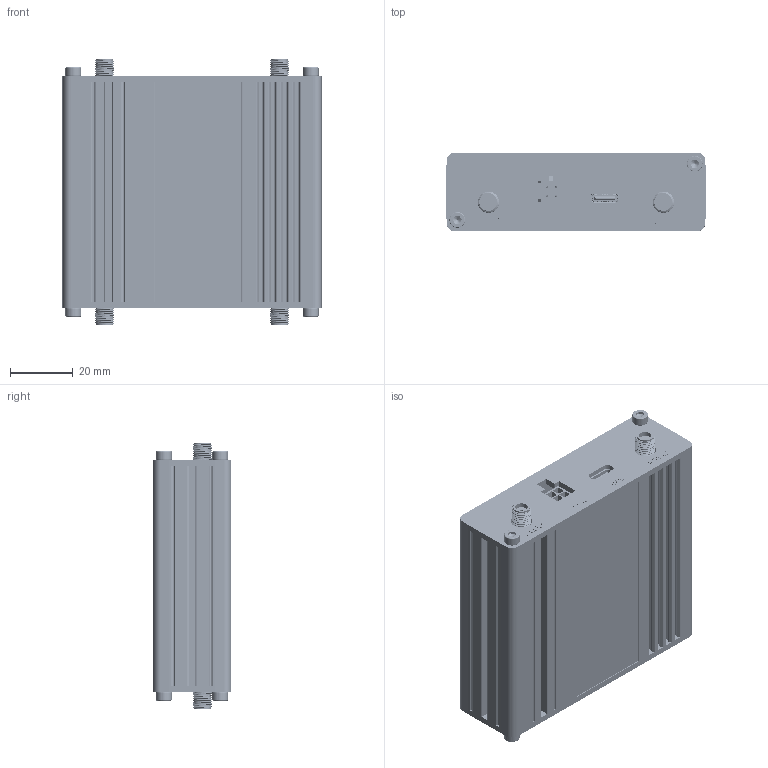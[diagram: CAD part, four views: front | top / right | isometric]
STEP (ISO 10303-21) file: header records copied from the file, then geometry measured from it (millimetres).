
FILE_DESCRIPTION (( 'STEP AP214' ), '1' );
FILE_NAME ('0008_TM500DAM000P_02.STEP', '2024-03-04T12:43:35', ( '' ), ( '' ), 'SwSTEP 2.0', 'SolidWorks 2023', '' );
FILE_SCHEMA (( 'AUTOMOTIVE_DESIGN' ));
Length unit declared in the file: millimetre
Products named in the file (8): 0072_TRB160HMBKT_01_TRB160 black; TRM5xx_v2.0_20240226_11_31; CH-CC-SC-1806214-1_3.03; 0320_TM500DPF0BCT_01_With engraving; SIM card; 0008_TM500DAM000P_02; 0318_TM500DPR0BCT_01_With engraving; O-ring(DIN 3771)
Assembly tree (13 placements, depth 2):
  0008_TM500DAM000P_02
    0072_TRB160HMBKT_01_TRB160 black
    0318_TM500DPR0BCT_01_With engraving
    0320_TM500DPF0BCT_01_With engraving
    SIM card
    CH-CC-SC-1806214-1_3.03  x4
    O-ring(DIN 3771)  x4
    TRM5xx_v2.0_20240226_11_31
Bounding box: 83 x 25 x 85.4 mm (x, y, z)
Volume: 45693.4 mm3; surface area: 73284 mm2
Topology: 18 solids, 1197 shells, 17307 faces, 44225 edges, 29141 vertices
Faces by surface type: plane 11942, cylinder 2895, bspline 1738, sphere 484, torus 155, cone 93
Full cylindrical faces by diameter (mm): 0.2 x1, 0.4 x1, 0.508 x1, 1 x1, 1.4 x3, 2 x1, 2.9 x4, 3.3 x4, 5 x4, 6.8 x4
Entity records: 769302 total; most frequent: CARTESIAN_POINT 172218, ORIENTED_EDGE 86418, DIRECTION 74737, EDGE_CURVE 43975, LINE 33749, VECTOR 33749, VERTEX_POINT 29030, AXIS2_PLACEMENT_3D 20494
